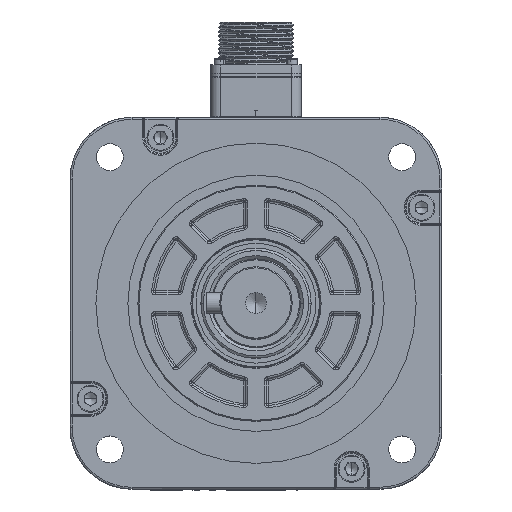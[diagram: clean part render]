
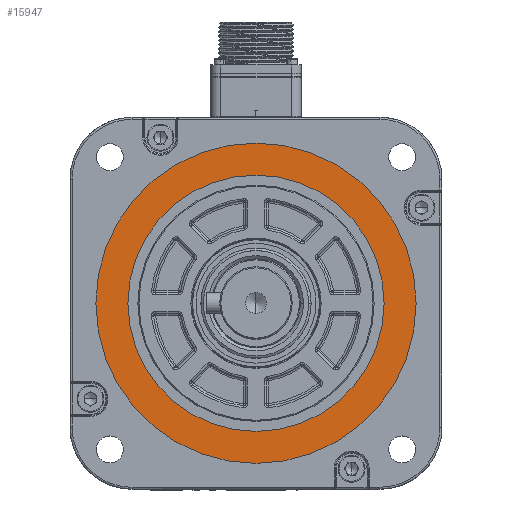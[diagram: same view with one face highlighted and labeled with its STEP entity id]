
A CAD part, top view. The second image highlights one B-rep face of the part: STEP entity #15947.
In plain terms, the highlighted planar face has unit normal (0, 0, 1) as drawn and (0, 0, -1) by its records, which use the part's own axes.
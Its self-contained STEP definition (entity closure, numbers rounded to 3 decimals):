
#4311 = ORIENTED_EDGE ( 'NONE', *, *, #125071, .T. ) ;
#8678 = ORIENTED_EDGE ( 'NONE', *, *, #125083, .T. ) ;
#11370 = DIRECTION ( 'NONE',  ( -1., 0., 0. ) ) ;
#13976 = CIRCLE ( 'NONE', #123400, 62. ) ;
#15947 = ADVANCED_FACE ( 'NONE', ( #64774, #171821 ), #32346, .T. ) ;
#18983 = DIRECTION ( 'NONE',  ( -1., 0., 0. ) ) ;
#30626 = DIRECTION ( 'NONE',  ( -1., 0., 0. ) ) ;
#32346 = PLANE ( 'NONE',  #55841 ) ;
#37175 = DIRECTION ( 'NONE',  ( 0., 0., -1. ) ) ;
#37693 = CARTESIAN_POINT ( 'NONE',  ( 0., 0., 1.5 ) ) ;
#41888 = CARTESIAN_POINT ( 'NONE',  ( 77.5, 0., 1.5 ) ) ;
#54988 = DIRECTION ( 'NONE',  ( -1., 0., 0. ) ) ;
#55566 = DIRECTION ( 'NONE',  ( -1., 0., 0. ) ) ;
#55841 = AXIS2_PLACEMENT_3D ( 'NONE', #125571, #72217, #30626 ) ;
#55853 = ORIENTED_EDGE ( 'NONE', *, *, #147518, .T. ) ;
#62405 = CARTESIAN_POINT ( 'NONE',  ( 62., 0., 1.5 ) ) ;
#64774 = FACE_OUTER_BOUND ( 'NONE', #110820, .T. ) ;
#67899 = CARTESIAN_POINT ( 'NONE',  ( 0., 0., 1.5 ) ) ;
#72217 = DIRECTION ( 'NONE',  ( 0., 0., -1. ) ) ;
#79071 = EDGE_LOOP ( 'NONE', ( #55853, #8678 ) ) ;
#87640 = VERTEX_POINT ( 'NONE', #91897 ) ;
#91653 = CARTESIAN_POINT ( 'NONE',  ( 0., 0., 1.5 ) ) ;
#91897 = CARTESIAN_POINT ( 'NONE',  ( -62., 0., 1.5 ) ) ;
#101736 = CARTESIAN_POINT ( 'NONE',  ( -77.5, 0., 1.5 ) ) ;
#108893 = DIRECTION ( 'NONE',  ( 0., 0., -1. ) ) ;
#109435 = CARTESIAN_POINT ( 'NONE',  ( 0., 0., 1.5 ) ) ;
#110820 = EDGE_LOOP ( 'NONE', ( #143349, #4311 ) ) ;
#117154 = CIRCLE ( 'NONE', #171785, 62. ) ;
#123400 = AXIS2_PLACEMENT_3D ( 'NONE', #109435, #161124, #54988 ) ;
#125071 = EDGE_CURVE ( 'NONE', #127342, #149757, #129325, .T. ) ;
#125083 = EDGE_CURVE ( 'NONE', #169189, #87640, #13976, .T. ) ;
#125571 = CARTESIAN_POINT ( 'NONE',  ( 0., 0., 1.5 ) ) ;
#127342 = VERTEX_POINT ( 'NONE', #41888 ) ;
#129053 = AXIS2_PLACEMENT_3D ( 'NONE', #67899, #108893, #55566 ) ;
#129325 = CIRCLE ( 'NONE', #129053, 77.5 ) ;
#141773 = CIRCLE ( 'NONE', #155037, 77.5 ) ;
#143349 = ORIENTED_EDGE ( 'NONE', *, *, #164886, .T. ) ;
#147518 = EDGE_CURVE ( 'NONE', #87640, #169189, #117154, .T. ) ;
#147815 = DIRECTION ( 'NONE',  ( 0., 0., 1. ) ) ;
#149757 = VERTEX_POINT ( 'NONE', #101736 ) ;
#155037 = AXIS2_PLACEMENT_3D ( 'NONE', #91653, #37175, #11370 ) ;
#161124 = DIRECTION ( 'NONE',  ( 0., 0., 1. ) ) ;
#164886 = EDGE_CURVE ( 'NONE', #149757, #127342, #141773, .T. ) ;
#169189 = VERTEX_POINT ( 'NONE', #62405 ) ;
#171785 = AXIS2_PLACEMENT_3D ( 'NONE', #37693, #147815, #18983 ) ;
#171821 = FACE_BOUND ( 'NONE', #79071, .T. ) ;
